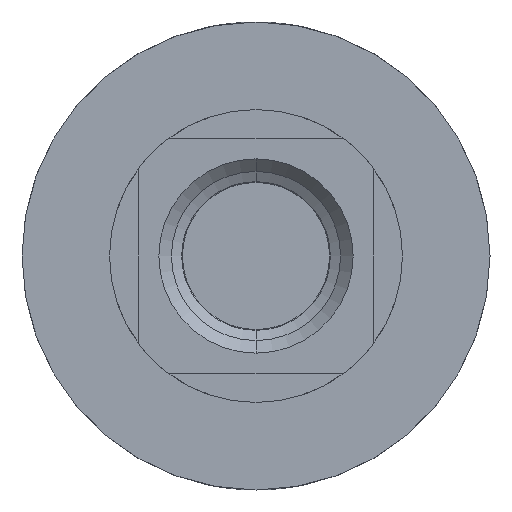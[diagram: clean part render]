
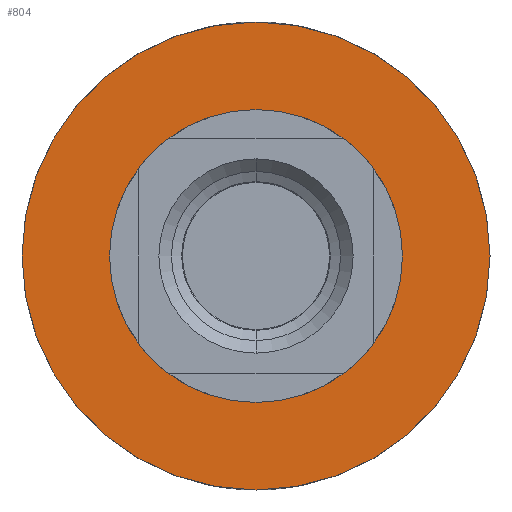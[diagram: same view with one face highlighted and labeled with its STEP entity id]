
A CAD part, front view. The second image highlights one B-rep face of the part: STEP entity #804.
In plain terms, the highlighted planar face has unit normal (0, -1, 0).
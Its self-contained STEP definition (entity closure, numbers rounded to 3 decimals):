
#106 = CARTESIAN_POINT ( 'NONE',  ( 0., 11., -4.975 ) ) ;
#108 = FACE_OUTER_BOUND ( 'NONE', #632, .T. ) ;
#172 = CIRCLE ( 'NONE', #2214, 4.975 ) ;
#237 = FACE_BOUND ( 'NONE', #693, .T. ) ;
#298 = CIRCLE ( 'NONE', #1320, 4.975 ) ;
#389 = CARTESIAN_POINT ( 'NONE',  ( 0., 11., 4.975 ) ) ;
#393 = CIRCLE ( 'NONE', #2842, 7.95 ) ;
#475 = CIRCLE ( 'NONE', #541, 7.95 ) ;
#541 = AXIS2_PLACEMENT_3D ( 'NONE', #2645, #2652, #2641 ) ;
#562 = CARTESIAN_POINT ( 'NONE',  ( 0., 11., 0. ) ) ;
#632 = EDGE_LOOP ( 'NONE', ( #2456, #699 ) ) ;
#693 = EDGE_LOOP ( 'NONE', ( #1923, #2739 ) ) ;
#699 = ORIENTED_EDGE ( 'NONE', *, *, #2580, .F. ) ;
#804 = ADVANCED_FACE ( 'NONE', ( #237, #108 ), #2430, .T. ) ;
#886 = EDGE_CURVE ( 'NONE', #1660, #2778, #172, .T. ) ;
#1225 = DIRECTION ( 'NONE',  ( 0., 1., 0. ) ) ;
#1240 = VERTEX_POINT ( 'NONE', #1942 ) ;
#1320 = AXIS2_PLACEMENT_3D ( 'NONE', #562, #1225, #1477 ) ;
#1477 = DIRECTION ( 'NONE',  ( 0., 0., -1. ) ) ;
#1660 = VERTEX_POINT ( 'NONE', #106 ) ;
#1805 = DIRECTION ( 'NONE',  ( 0., 0., -1. ) ) ;
#1810 = DIRECTION ( 'NONE',  ( 0., 1., 0. ) ) ;
#1812 = CARTESIAN_POINT ( 'NONE',  ( 0., 11., 0. ) ) ;
#1923 = ORIENTED_EDGE ( 'NONE', *, *, #886, .T. ) ;
#1942 = CARTESIAN_POINT ( 'NONE',  ( 0., 11., -7.95 ) ) ;
#2007 = VERTEX_POINT ( 'NONE', #2893 ) ;
#2214 = AXIS2_PLACEMENT_3D ( 'NONE', #1812, #1810, #1805 ) ;
#2296 = EDGE_CURVE ( 'NONE', #1240, #2007, #475, .T. ) ;
#2423 = DIRECTION ( 'NONE',  ( 0., -1., 0. ) ) ;
#2428 = DIRECTION ( 'NONE',  ( 0., 0., -1. ) ) ;
#2430 = PLANE ( 'NONE',  #2828 ) ;
#2456 = ORIENTED_EDGE ( 'NONE', *, *, #2296, .F. ) ;
#2462 = CARTESIAN_POINT ( 'NONE',  ( 4.975, 11., 0. ) ) ;
#2580 = EDGE_CURVE ( 'NONE', #2007, #1240, #393, .T. ) ;
#2641 = DIRECTION ( 'NONE',  ( 0., 0., -1. ) ) ;
#2645 = CARTESIAN_POINT ( 'NONE',  ( 0., 11., 0. ) ) ;
#2652 = DIRECTION ( 'NONE',  ( 0., 1., 0. ) ) ;
#2739 = ORIENTED_EDGE ( 'NONE', *, *, #2835, .T. ) ;
#2778 = VERTEX_POINT ( 'NONE', #389 ) ;
#2828 = AXIS2_PLACEMENT_3D ( 'NONE', #2462, #2423, #2428 ) ;
#2835 = EDGE_CURVE ( 'NONE', #2778, #1660, #298, .T. ) ;
#2842 = AXIS2_PLACEMENT_3D ( 'NONE', #3074, #3044, #3057 ) ;
#2893 = CARTESIAN_POINT ( 'NONE',  ( 0., 11., 7.95 ) ) ;
#3044 = DIRECTION ( 'NONE',  ( 0., 1., 0. ) ) ;
#3057 = DIRECTION ( 'NONE',  ( 0., 0., -1. ) ) ;
#3074 = CARTESIAN_POINT ( 'NONE',  ( 0., 11., 0. ) ) ;
